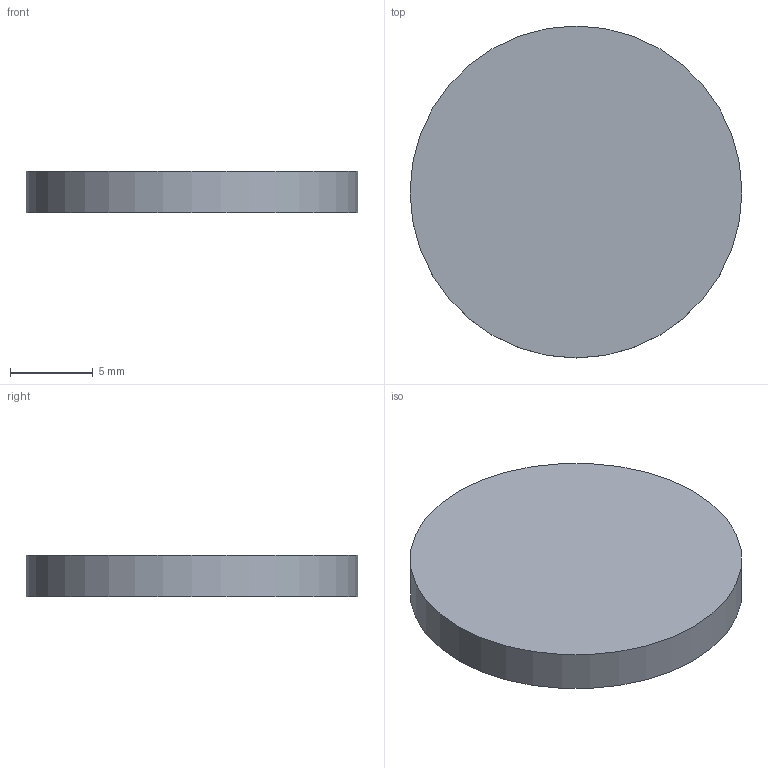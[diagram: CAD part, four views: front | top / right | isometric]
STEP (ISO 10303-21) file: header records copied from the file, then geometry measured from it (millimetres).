
FILE_DESCRIPTION((''),'2;1');
FILE_NAME('C:\TurckZip\TW-R20.stp','2007-11-12T10:01:57',('IKOROL'),(''),'Autodesk Inventor 2008','Autodesk Inventor 2008','');
FILE_SCHEMA(('AUTOMOTIVE_DESIGN { 1 2 10303 214 0 1 1 1 }'));
Length unit declared in the file: millimetre
Products named in the file (1): Part4
Bounding box: 20 x 20 x 2.5 mm (x, y, z)
Volume: 785.4 mm3; surface area: 785.4 mm2
Topology: 1 solids, 1 shells, 3 faces, 3 edges, 2 vertices
Faces by surface type: plane 2, cylinder 1
Full cylindrical faces by diameter (mm): 20 x1
Entity records: 80 total; most frequent: DIRECTION 12, CARTESIAN_POINT 8, AXIS2_PLACEMENT_3D 6, ORIENTED_EDGE 4, EDGE_LOOP 4, FACE_OUTER_BOUND 3, ADVANCED_FACE 3, DIMENSIONAL_EXPONENTS 2
